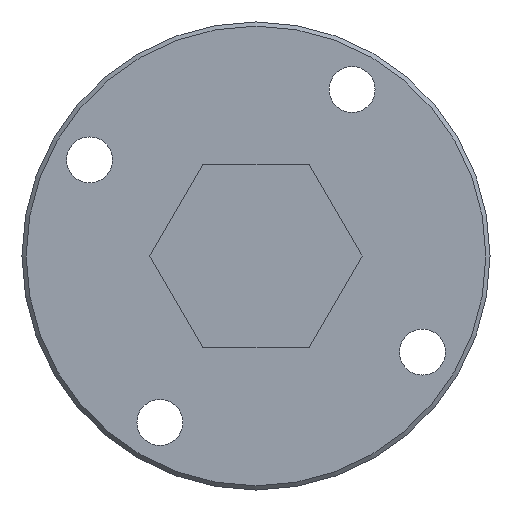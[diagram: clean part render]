
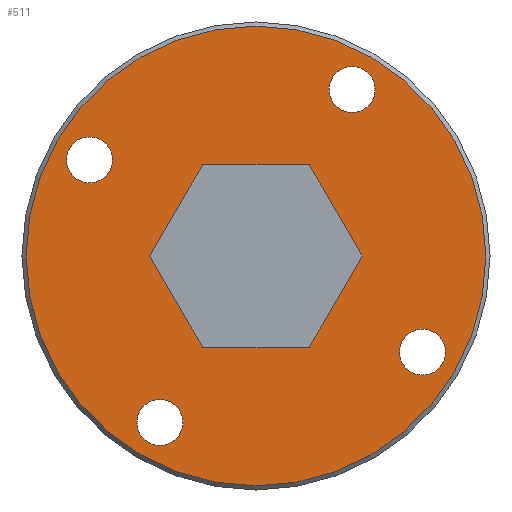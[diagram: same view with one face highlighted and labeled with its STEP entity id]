
A CAD part, left-side view. The second image highlights one B-rep face of the part: STEP entity #511.
In plain terms, the highlighted planar face has unit normal (-1, 0, 0).
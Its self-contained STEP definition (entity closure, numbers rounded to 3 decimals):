
#377=CARTESIAN_POINT('',(125.0,27.5,0.));
#378=VERTEX_POINT('',#377);
#379=CARTESIAN_POINT('',(125.0,0.0,0.0));
#380=DIRECTION('',(1.0,0.0,0.0));
#381=DIRECTION('',(0.0,-1.0,0.0));
#382=AXIS2_PLACEMENT_3D('',#379,#380,#381);
#383=CIRCLE('',#382,27.5);
#384=EDGE_CURVE('',#378,#378,#383,.T.);
#409=CARTESIAN_POINT('',(125.0,0.0,9.));
#410=DIRECTION('',(-1.0,0.0,0.0));
#411=DIRECTION('',(0.0,0.0,1.0));
#412=AXIS2_PLACEMENT_3D('',#409,#410,#411);
#413=PLANE('',#412);
#414=ORIENTED_EDGE('',*,*,#384,.F.);
#415=EDGE_LOOP('',(#414));
#416=FACE_OUTER_BOUND('',#415,.T.);
#417=CARTESIAN_POINT('',(125.0,-6.351,-11.0));
#418=VERTEX_POINT('',#417);
#419=CARTESIAN_POINT('',(125.0,6.351,-11.));
#420=VERTEX_POINT('',#419);
#421=CARTESIAN_POINT('',(125.0,-6.351,-11.0));
#422=DIRECTION('',(0.0,1.0,0.0));
#423=VECTOR('',#422,12.702);
#424=LINE('',#421,#423);
#425=EDGE_CURVE('',#418,#420,#424,.T.);
#426=ORIENTED_EDGE('',*,*,#425,.T.);
#427=CARTESIAN_POINT('',(125.0,12.702,0.));
#428=VERTEX_POINT('',#427);
#429=CARTESIAN_POINT('',(125.0,6.351,-11.));
#430=DIRECTION('',(0.0,0.5,0.866));
#431=VECTOR('',#430,12.702);
#432=LINE('',#429,#431);
#433=EDGE_CURVE('',#420,#428,#432,.T.);
#434=ORIENTED_EDGE('',*,*,#433,.T.);
#435=CARTESIAN_POINT('',(125.0,6.351,11.));
#436=VERTEX_POINT('',#435);
#437=CARTESIAN_POINT('',(125.0,12.702,0.));
#438=DIRECTION('',(0.0,-0.5,0.866));
#439=VECTOR('',#438,12.702);
#440=LINE('',#437,#439);
#441=EDGE_CURVE('',#428,#436,#440,.T.);
#442=ORIENTED_EDGE('',*,*,#441,.T.);
#443=CARTESIAN_POINT('',(125.0,-6.351,11.));
#444=VERTEX_POINT('',#443);
#445=CARTESIAN_POINT('',(125.0,6.351,11.));
#446=DIRECTION('',(0.0,-1.0,0.0));
#447=VECTOR('',#446,12.702);
#448=LINE('',#445,#447);
#449=EDGE_CURVE('',#436,#444,#448,.T.);
#450=ORIENTED_EDGE('',*,*,#449,.T.);
#451=CARTESIAN_POINT('',(125.0,-12.702,0.));
#452=VERTEX_POINT('',#451);
#453=CARTESIAN_POINT('',(125.0,-6.351,11.));
#454=DIRECTION('',(0.0,-0.5,-0.866));
#455=VECTOR('',#454,12.702);
#456=LINE('',#453,#455);
#457=EDGE_CURVE('',#444,#452,#456,.T.);
#458=ORIENTED_EDGE('',*,*,#457,.T.);
#459=CARTESIAN_POINT('',(125.0,-12.702,0.));
#460=DIRECTION('',(0.0,0.5,-0.866));
#461=VECTOR('',#460,12.702);
#462=LINE('',#459,#461);
#463=EDGE_CURVE('',#452,#418,#462,.T.);
#464=ORIENTED_EDGE('',*,*,#463,.T.);
#465=EDGE_LOOP('',(#426,#434,#442,#450,#458,#464));
#466=FACE_BOUND('',#465,.T.);
#467=CARTESIAN_POINT('',(125.0,-8.75,19.919));
#468=VERTEX_POINT('',#467);
#469=CARTESIAN_POINT('',(125.0,-11.5,19.919));
#470=DIRECTION('',(1.0,0.0,0.0));
#471=DIRECTION('',(0.0,1.0,0.0));
#472=AXIS2_PLACEMENT_3D('',#469,#470,#471);
#473=CIRCLE('',#472,2.75);
#474=EDGE_CURVE('',#468,#468,#473,.T.);
#475=ORIENTED_EDGE('',*,*,#474,.T.);
#476=EDGE_LOOP('',(#475));
#477=FACE_BOUND('',#476,.T.);
#478=CARTESIAN_POINT('',(125.0,-19.919,-8.75));
#479=VERTEX_POINT('',#478);
#480=CARTESIAN_POINT('',(125.0,-19.919,-11.5));
#481=DIRECTION('',(1.0,0.0,0.0));
#482=DIRECTION('',(0.0,0.0,1.0));
#483=AXIS2_PLACEMENT_3D('',#480,#481,#482);
#484=CIRCLE('',#483,2.75);
#485=EDGE_CURVE('',#479,#479,#484,.T.);
#486=ORIENTED_EDGE('',*,*,#485,.T.);
#487=EDGE_LOOP('',(#486));
#488=FACE_BOUND('',#487,.T.);
#489=CARTESIAN_POINT('',(125.0,8.75,-19.919));
#490=VERTEX_POINT('',#489);
#491=CARTESIAN_POINT('',(125.0,11.5,-19.919));
#492=DIRECTION('',(1.0,0.0,0.0));
#493=DIRECTION('',(0.0,-1.0,0.0));
#494=AXIS2_PLACEMENT_3D('',#491,#492,#493);
#495=CIRCLE('',#494,2.75);
#496=EDGE_CURVE('',#490,#490,#495,.T.);
#497=ORIENTED_EDGE('',*,*,#496,.T.);
#498=EDGE_LOOP('',(#497));
#499=FACE_BOUND('',#498,.T.);
#500=CARTESIAN_POINT('',(125.0,19.919,8.75));
#501=VERTEX_POINT('',#500);
#502=CARTESIAN_POINT('',(125.0,19.919,11.5));
#503=DIRECTION('',(1.0,0.0,0.0));
#504=DIRECTION('',(0.0,0.0,-1.0));
#505=AXIS2_PLACEMENT_3D('',#502,#503,#504);
#506=CIRCLE('',#505,2.75);
#507=EDGE_CURVE('',#501,#501,#506,.T.);
#508=ORIENTED_EDGE('',*,*,#507,.T.);
#509=EDGE_LOOP('',(#508));
#510=FACE_BOUND('',#509,.T.);
#511=ADVANCED_FACE('',(#416,#466,#477,#488,#499,#510),#413,.T.);
